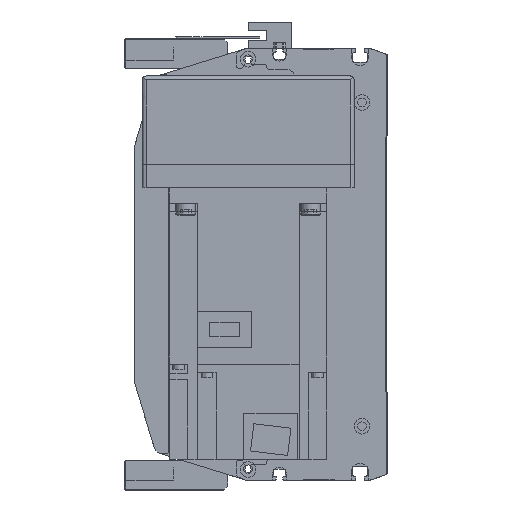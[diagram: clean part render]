
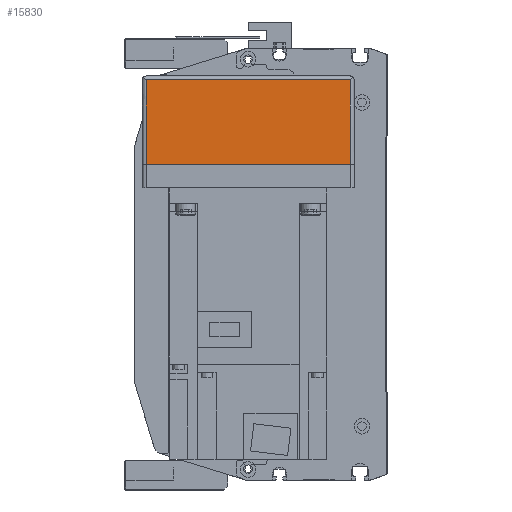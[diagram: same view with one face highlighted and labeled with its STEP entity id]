
A CAD part, left-side view. The second image highlights one B-rep face of the part: STEP entity #15830.
In plain terms, the highlighted planar face has unit normal (-1, 0, 0).
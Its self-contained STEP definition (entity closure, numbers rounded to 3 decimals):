
#2672=ORIENTED_EDGE('',*,*,#6428,.T.);
#2673=ORIENTED_EDGE('',*,*,#6356,.T.);
#2674=ORIENTED_EDGE('',*,*,#6429,.F.);
#2675=ORIENTED_EDGE('',*,*,#6368,.F.);
#6356=EDGE_CURVE('',#8380,#8383,#10022,.T.);
#6368=EDGE_CURVE('',#8390,#8392,#10027,.T.);
#6428=EDGE_CURVE('',#8390,#8380,#10069,.T.);
#6429=EDGE_CURVE('',#8392,#8383,#10070,.T.);
#8380=VERTEX_POINT('',#24661);
#8383=VERTEX_POINT('',#24667);
#8390=VERTEX_POINT('',#24690);
#8392=VERTEX_POINT('',#24693);
#10022=LINE('',#24668,#11385);
#10027=LINE('',#24692,#11390);
#10069=LINE('',#24816,#11432);
#10070=LINE('',#24817,#11433);
#11385=VECTOR('',#19663,1000.);
#11390=VECTOR('',#19690,1000.);
#11432=VECTOR('',#19810,1000.);
#11433=VECTOR('',#19811,1000.);
#12605=EDGE_LOOP('',(#2672,#2673,#2674,#2675));
#13968=FACE_BOUND('',#12605,.T.);
#15169=PLANE('',#17003);
#15830=ADVANCED_FACE('',(#13968),#15169,.T.);
#17003=AXIS2_PLACEMENT_3D('',#24815,#19808,#19809);
#19663=DIRECTION('',(0.,0.,1.));
#19690=DIRECTION('',(0.,0.,1.));
#19808=DIRECTION('',(-1.,0.,0.));
#19809=DIRECTION('',(0.,0.,1.));
#19810=DIRECTION('',(0.,-1.,0.));
#19811=DIRECTION('',(0.,-1.,0.));
#24661=CARTESIAN_POINT('',(-230.,-52.,-55.));
#24667=CARTESIAN_POINT('',(-230.,-52.,-12.));
#24668=CARTESIAN_POINT('',(-230.,-52.,-57.));
#24690=CARTESIAN_POINT('',(-230.,52.,-55.));
#24692=CARTESIAN_POINT('',(-230.,52.,-57.));
#24693=CARTESIAN_POINT('',(-230.,52.,-12.));
#24815=CARTESIAN_POINT('',(-230.,52.,-57.));
#24816=CARTESIAN_POINT('',(-230.,54.,-55.));
#24817=CARTESIAN_POINT('',(-230.,52.,-12.));
